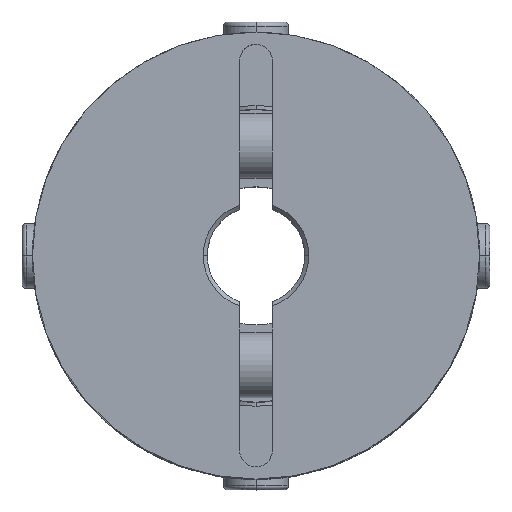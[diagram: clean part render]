
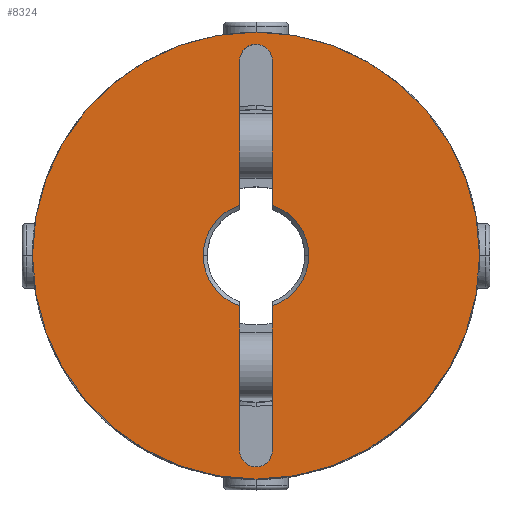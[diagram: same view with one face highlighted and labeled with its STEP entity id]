
A CAD part, top view. The second image highlights one B-rep face of the part: STEP entity #8324.
In plain terms, the highlighted planar face has unit normal (0, 0, 1).
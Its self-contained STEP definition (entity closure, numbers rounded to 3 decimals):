
#632=CARTESIAN_POINT('',(6.5,0.,29.0));
#633=VERTEX_POINT('',#632);
#649=CARTESIAN_POINT('',(2.,-6.185,29.0));
#650=VERTEX_POINT('',#649);
#664=CARTESIAN_POINT('',(0.,0.0,29.0));
#665=DIRECTION('',(0.0,0.0,1.0));
#666=DIRECTION('',(-1.0,0.0,0.0));
#667=AXIS2_PLACEMENT_3D('',#664,#665,#666);
#668=CIRCLE('',#667,6.5);
#669=EDGE_CURVE('',#650,#633,#668,.T.);
#831=CARTESIAN_POINT('',(-6.5,0.,29.0));
#832=VERTEX_POINT('',#831);
#839=CARTESIAN_POINT('',(-2.,-6.185,29.0));
#840=VERTEX_POINT('',#839);
#841=CARTESIAN_POINT('',(0.,0.0,29.0));
#842=DIRECTION('',(0.0,0.0,1.0));
#843=DIRECTION('',(-1.0,0.0,0.0));
#844=AXIS2_PLACEMENT_3D('',#841,#842,#843);
#845=CIRCLE('',#844,6.5);
#846=EDGE_CURVE('',#832,#840,#845,.T.);
#872=CARTESIAN_POINT('',(-1.414,25.414,29.0));
#873=VERTEX_POINT('',#872);
#889=CARTESIAN_POINT('',(2.,24.,29.0));
#890=VERTEX_POINT('',#889);
#897=CARTESIAN_POINT('',(0.,24.,29.0));
#898=DIRECTION('',(0.0,0.0,1.));
#899=DIRECTION('',(0.707,0.707,0.0));
#900=AXIS2_PLACEMENT_3D('',#897,#898,#899);
#901=CIRCLE('',#900,2.);
#902=EDGE_CURVE('',#890,#873,#901,.T.);
#914=CARTESIAN_POINT('',(1.414,-25.414,29.0));
#915=VERTEX_POINT('',#914);
#931=CARTESIAN_POINT('',(-2.,-24.,29.0));
#932=VERTEX_POINT('',#931);
#939=CARTESIAN_POINT('',(0.,-24.,29.0));
#940=DIRECTION('',(0.0,0.0,1.0));
#941=DIRECTION('',(-0.707,-0.707,0.0));
#942=AXIS2_PLACEMENT_3D('',#939,#940,#941);
#943=CIRCLE('',#942,2.0);
#944=EDGE_CURVE('',#932,#915,#943,.T.);
#1499=CARTESIAN_POINT('',(-27.5,0.,29.0));
#1500=VERTEX_POINT('',#1499);
#1507=CARTESIAN_POINT('',(27.5,0.0,29.0));
#1508=VERTEX_POINT('',#1507);
#1509=CARTESIAN_POINT('',(0.,0.0,29.0));
#1510=DIRECTION('',(0.0,0.0,-1.0));
#1511=DIRECTION('',(1.0,0.0,0.0));
#1512=AXIS2_PLACEMENT_3D('',#1509,#1510,#1511);
#1513=CIRCLE('',#1512,27.5);
#1514=EDGE_CURVE('',#1500,#1508,#1513,.T.);
#7525=CARTESIAN_POINT('',(0.,0.0,29.0));
#7526=DIRECTION('',(0.0,0.0,-1.0));
#7527=DIRECTION('',(1.0,0.0,0.0));
#7528=AXIS2_PLACEMENT_3D('',#7525,#7526,#7527);
#7529=CIRCLE('',#7528,27.5);
#7530=EDGE_CURVE('',#1508,#1500,#7529,.T.);
#8083=CARTESIAN_POINT('',(2.,-24.,29.0));
#8084=VERTEX_POINT('',#8083);
#8085=CARTESIAN_POINT('',(0.,-24.,29.0));
#8086=DIRECTION('',(0.0,0.0,1.0));
#8087=DIRECTION('',(-0.707,-0.707,0.0));
#8088=AXIS2_PLACEMENT_3D('',#8085,#8086,#8087);
#8089=CIRCLE('',#8088,2.0);
#8090=EDGE_CURVE('',#915,#8084,#8089,.T.);
#8108=CARTESIAN_POINT('',(2.,-6.185,29.0));
#8109=DIRECTION('',(0.0,-1.0,0.0));
#8110=VECTOR('',#8109,17.815);
#8111=LINE('',#8108,#8110);
#8112=EDGE_CURVE('',#650,#8084,#8111,.T.);
#8131=CARTESIAN_POINT('',(-2.,24.,29.0));
#8132=VERTEX_POINT('',#8131);
#8133=CARTESIAN_POINT('',(0.,24.,29.0));
#8134=DIRECTION('',(0.0,0.0,1.));
#8135=DIRECTION('',(0.707,0.707,0.0));
#8136=AXIS2_PLACEMENT_3D('',#8133,#8134,#8135);
#8137=CIRCLE('',#8136,2.);
#8138=EDGE_CURVE('',#873,#8132,#8137,.T.);
#8156=CARTESIAN_POINT('',(-2.,6.185,29.0));
#8157=VERTEX_POINT('',#8156);
#8158=CARTESIAN_POINT('',(-2.,6.185,29.0));
#8159=DIRECTION('',(0.0,1.0,0.0));
#8160=VECTOR('',#8159,17.815);
#8161=LINE('',#8158,#8160);
#8162=EDGE_CURVE('',#8157,#8132,#8161,.T.);
#8238=CARTESIAN_POINT('',(2.,6.185,29.0));
#8239=VERTEX_POINT('',#8238);
#8253=CARTESIAN_POINT('',(2.,24.,29.0));
#8254=DIRECTION('',(0.0,-1.0,0.0));
#8255=VECTOR('',#8254,17.815);
#8256=LINE('',#8253,#8255);
#8257=EDGE_CURVE('',#890,#8239,#8256,.T.);
#8276=CARTESIAN_POINT('',(-2.,-24.,29.0));
#8277=DIRECTION('',(0.0,1.0,0.0));
#8278=VECTOR('',#8277,17.815);
#8279=LINE('',#8276,#8278);
#8280=EDGE_CURVE('',#932,#840,#8279,.T.);
#8289=CARTESIAN_POINT('',(2.5,0.,29.0));
#8290=DIRECTION('',(0.0,0.0,1.0));
#8291=DIRECTION('',(1.0,0.0,0.0));
#8292=AXIS2_PLACEMENT_3D('',#8289,#8290,#8291);
#8293=PLANE('',#8292);
#8294=ORIENTED_EDGE('',*,*,#7530,.F.);
#8295=ORIENTED_EDGE('',*,*,#1514,.F.);
#8296=EDGE_LOOP('',(#8294,#8295));
#8297=FACE_OUTER_BOUND('',#8296,.T.);
#8298=ORIENTED_EDGE('',*,*,#8112,.T.);
#8299=ORIENTED_EDGE('',*,*,#8090,.F.);
#8300=ORIENTED_EDGE('',*,*,#944,.F.);
#8301=ORIENTED_EDGE('',*,*,#8280,.T.);
#8302=ORIENTED_EDGE('',*,*,#846,.F.);
#8303=CARTESIAN_POINT('',(0.,0.0,29.0));
#8304=DIRECTION('',(0.0,0.0,1.0));
#8305=DIRECTION('',(-1.0,0.0,0.0));
#8306=AXIS2_PLACEMENT_3D('',#8303,#8304,#8305);
#8307=CIRCLE('',#8306,6.5);
#8308=EDGE_CURVE('',#8157,#832,#8307,.T.);
#8309=ORIENTED_EDGE('',*,*,#8308,.F.);
#8310=ORIENTED_EDGE('',*,*,#8162,.T.);
#8311=ORIENTED_EDGE('',*,*,#8138,.F.);
#8312=ORIENTED_EDGE('',*,*,#902,.F.);
#8313=ORIENTED_EDGE('',*,*,#8257,.T.);
#8314=CARTESIAN_POINT('',(0.,0.0,29.0));
#8315=DIRECTION('',(0.0,0.0,1.0));
#8316=DIRECTION('',(-1.0,0.0,0.0));
#8317=AXIS2_PLACEMENT_3D('',#8314,#8315,#8316);
#8318=CIRCLE('',#8317,6.5);
#8319=EDGE_CURVE('',#633,#8239,#8318,.T.);
#8320=ORIENTED_EDGE('',*,*,#8319,.F.);
#8321=ORIENTED_EDGE('',*,*,#669,.F.);
#8322=EDGE_LOOP('',(#8298,#8299,#8300,#8301,#8302,#8309,#8310,#8311,#8312,#8313,#8320,#8321));
#8323=FACE_BOUND('',#8322,.T.);
#8324=ADVANCED_FACE('',(#8297,#8323),#8293,.T.);
